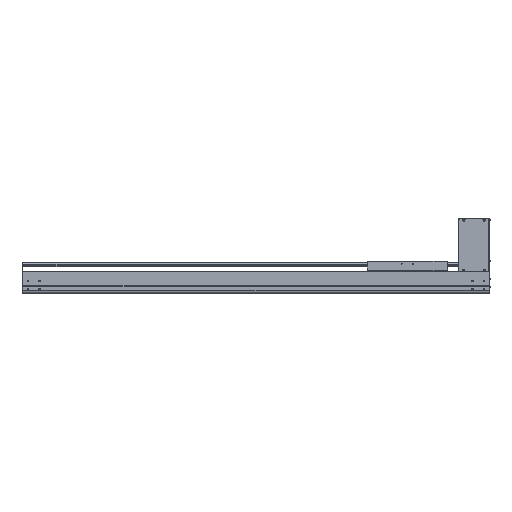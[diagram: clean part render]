
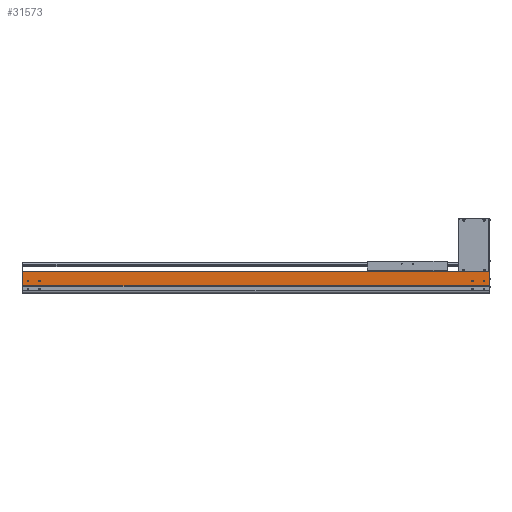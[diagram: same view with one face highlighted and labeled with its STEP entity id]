
A CAD part, top view. The second image highlights one B-rep face of the part: STEP entity #31573.
In plain terms, the highlighted planar face has unit normal (0, 0, 1).
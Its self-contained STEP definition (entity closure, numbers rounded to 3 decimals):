
#8467=DIRECTION('',(-1.,-0.006,-0.017));
#8468=VECTOR('',#8467,1.5);
#8469=CARTESIAN_POINT('',(1.5,94.,107.));
#8470=LINE('',#8469,#8468);
#8471=DIRECTION('',(-1.,0.,0.));
#8472=VECTOR('',#8471,2048.5);
#8473=CARTESIAN_POINT('',(0.,93.5,107.));
#8474=LINE('',#8473,#8472);
#8515=CARTESIAN_POINT('',(0.,93.992,106.974));
#8516=CARTESIAN_POINT('',(0.,93.939,106.974));
#8517=CARTESIAN_POINT('',(0.,93.857,107.018));
#8518=CARTESIAN_POINT('',(0.,93.779,106.99));
#8519=CARTESIAN_POINT('',(0.,93.747,106.99));
#8521=CARTESIAN_POINT('',(0.,93.747,106.99));
#8522=CARTESIAN_POINT('',(0.,93.707,106.99));
#8523=CARTESIAN_POINT('',(0.,93.626,107.005));
#8524=CARTESIAN_POINT('',(0.,93.543,107.));
#8525=CARTESIAN_POINT('',(0.,93.5,107.));
#8527=CARTESIAN_POINT('',(-2023.5,54.,107.));
#8528=DIRECTION('',(0.,0.,-1.));
#8529=DIRECTION('',(1.,0.,0.));
#8530=AXIS2_PLACEMENT_3D('',#8527,#8528,#8529);
#8532=CARTESIAN_POINT('',(-2023.5,54.,107.));
#8533=DIRECTION('',(0.,0.,-1.));
#8534=DIRECTION('',(-1.,0.,0.));
#8535=AXIS2_PLACEMENT_3D('',#8532,#8533,#8534);
#8537=CARTESIAN_POINT('',(-1973.5,54.,107.));
#8538=DIRECTION('',(0.,0.,-1.));
#8539=DIRECTION('',(1.,0.,0.));
#8540=AXIS2_PLACEMENT_3D('',#8537,#8538,#8539);
#8542=CARTESIAN_POINT('',(-1973.5,54.,107.));
#8543=DIRECTION('',(0.,0.,-1.));
#8544=DIRECTION('',(-1.,0.,0.));
#8545=AXIS2_PLACEMENT_3D('',#8542,#8543,#8544);
#8547=CARTESIAN_POINT('',(-23.5,54.,107.));
#8548=DIRECTION('',(0.,0.,-1.));
#8549=DIRECTION('',(1.,0.,0.));
#8550=AXIS2_PLACEMENT_3D('',#8547,#8548,#8549);
#8552=CARTESIAN_POINT('',(-23.5,54.,107.));
#8553=DIRECTION('',(0.,0.,-1.));
#8554=DIRECTION('',(-1.,0.,0.));
#8555=AXIS2_PLACEMENT_3D('',#8552,#8553,#8554);
#8557=CARTESIAN_POINT('',(-73.5,54.,107.));
#8558=DIRECTION('',(0.,0.,-1.));
#8559=DIRECTION('',(1.,0.,0.));
#8560=AXIS2_PLACEMENT_3D('',#8557,#8558,#8559);
#8562=CARTESIAN_POINT('',(-73.5,54.,107.));
#8563=DIRECTION('',(0.,0.,-1.));
#8564=DIRECTION('',(-1.,0.,0.));
#8565=AXIS2_PLACEMENT_3D('',#8562,#8563,#8564);
#8567=DIRECTION('',(0.,-1.,0.));
#8568=VECTOR('',#8567,2.55);
#8569=CARTESIAN_POINT('',(-2046.5,34.65,107.));
#8570=LINE('',#8569,#8568);
#8571=DIRECTION('',(0.,-1.,0.));
#8572=VECTOR('',#8571,58.85);
#8573=CARTESIAN_POINT('',(-2048.5,93.5,107.));
#8574=LINE('',#8573,#8572);
#8575=DIRECTION('',(0.,1.,0.));
#8576=VECTOR('',#8575,58.35);
#8577=CARTESIAN_POINT('',(1.5,35.65,107.));
#8578=LINE('',#8577,#8576);
#8579=DIRECTION('',(0.,1.,0.));
#8580=VECTOR('',#8579,3.55);
#8581=CARTESIAN_POINT('',(0.,32.1,107.));
#8582=LINE('',#8581,#8580);
#8583=DIRECTION('',(1.,0.,0.));
#8584=VECTOR('',#8583,2046.5);
#8585=CARTESIAN_POINT('',(-2046.5,32.1,107.));
#8586=LINE('',#8585,#8584);
#8695=DIRECTION('',(1.,0.,0.));
#8696=VECTOR('',#8695,2.);
#8697=CARTESIAN_POINT('',(-2048.5,34.65,107.));
#8698=LINE('',#8697,#8696);
#8719=DIRECTION('',(1.,0.,0.));
#8720=VECTOR('',#8719,1.5);
#8721=CARTESIAN_POINT('',(0.,35.65,107.));
#8722=LINE('',#8721,#8720);
#17120=CARTESIAN_POINT('',(1.5,94.,107.));
#17121=VERTEX_POINT('',#17120);
#17122=CARTESIAN_POINT('',(1.5,35.65,107.));
#17123=VERTEX_POINT('',#17122);
#17192=CARTESIAN_POINT('',(-2048.5,34.65,107.));
#17193=VERTEX_POINT('',#17192);
#17194=CARTESIAN_POINT('',(-2048.5,93.5,107.));
#17195=VERTEX_POINT('',#17194);
#17420=CARTESIAN_POINT('',(-2046.5,32.1,107.));
#17421=VERTEX_POINT('',#17420);
#17471=CARTESIAN_POINT('',(0.,32.1,107.));
#17473=VERTEX_POINT('',#17471);
#18026=CARTESIAN_POINT('',(-2021.,54.,107.));
#18027=CARTESIAN_POINT('',(-2026.,54.,107.));
#18028=VERTEX_POINT('',#18026);
#18029=VERTEX_POINT('',#18027);
#18030=CARTESIAN_POINT('',(-1971.,54.,107.));
#18031=CARTESIAN_POINT('',(-1976.,54.,107.));
#18032=VERTEX_POINT('',#18030);
#18033=VERTEX_POINT('',#18031);
#18034=CARTESIAN_POINT('',(-21.,54.,107.));
#18035=CARTESIAN_POINT('',(-26.,54.,107.));
#18036=VERTEX_POINT('',#18034);
#18037=VERTEX_POINT('',#18035);
#18038=CARTESIAN_POINT('',(-71.,54.,107.));
#18039=CARTESIAN_POINT('',(-76.,54.,107.));
#18040=VERTEX_POINT('',#18038);
#18041=VERTEX_POINT('',#18039);
#20232=CARTESIAN_POINT('',(0.,35.65,107.));
#20233=VERTEX_POINT('',#20232);
#20234=CARTESIAN_POINT('',(0.,93.975,106.923));
#20236=VERTEX_POINT('',#20234);
#20382=VERTEX_POINT('',#8519);
#20383=VERTEX_POINT('',#8525);
#20841=CARTESIAN_POINT('',(-2046.5,34.65,107.));
#20842=VERTEX_POINT('',#20841);
#31528=CARTESIAN_POINT('',(-1023.25,62.8,107.));
#31529=DIRECTION('',(0.,0.,1.));
#31530=DIRECTION('',(0.,-1.,0.));
#31531=AXIS2_PLACEMENT_3D('',#31528,#31529,#31530);
#31532=PLANE('',#31531);
#31533=ORIENTED_EDGE('',*,*,#22761,.F.);
#31535=ORIENTED_EDGE('',*,*,#31534,.F.);
#31536=ORIENTED_EDGE('',*,*,#24969,.F.);
#31537=ORIENTED_EDGE('',*,*,#31509,.F.);
#31538=ORIENTED_EDGE('',*,*,#31523,.F.);
#31539=ORIENTED_EDGE('',*,*,#31521,.F.);
#31540=ORIENTED_EDGE('',*,*,#31499,.F.);
#31541=ORIENTED_EDGE('',*,*,#21687,.F.);
#31543=ORIENTED_EDGE('',*,*,#31542,.F.);
#31544=ORIENTED_EDGE('',*,*,#23518,.F.);
#31546=ORIENTED_EDGE('',*,*,#31545,.F.);
#31547=EDGE_LOOP('',(#31533,#31535,#31536,#31537,#31538,#31539,#31540,#31541,
#31543,#31544,#31546));
#31548=FACE_OUTER_BOUND('',#31547,.F.);
#31550=ORIENTED_EDGE('',*,*,#31549,.F.);
#31552=ORIENTED_EDGE('',*,*,#31551,.F.);
#31553=EDGE_LOOP('',(#31550,#31552));
#31554=FACE_BOUND('',#31553,.F.);
#31556=ORIENTED_EDGE('',*,*,#31555,.F.);
#31558=ORIENTED_EDGE('',*,*,#31557,.F.);
#31559=EDGE_LOOP('',(#31556,#31558));
#31560=FACE_BOUND('',#31559,.F.);
#31562=ORIENTED_EDGE('',*,*,#31561,.F.);
#31564=ORIENTED_EDGE('',*,*,#31563,.F.);
#31565=EDGE_LOOP('',(#31562,#31564));
#31566=FACE_BOUND('',#31565,.F.);
#31568=ORIENTED_EDGE('',*,*,#31567,.F.);
#31570=ORIENTED_EDGE('',*,*,#31569,.F.);
#31571=EDGE_LOOP('',(#31568,#31570));
#31572=FACE_BOUND('',#31571,.F.);
#31573=ADVANCED_FACE('',(#31548,#31554,#31560,#31566,#31572),#31532,.T.);
#8520=B_SPLINE_CURVE_WITH_KNOTS('',3,(#8515,#8516,#8517,#8518,#8519),
.UNSPECIFIED.,.F.,.F.,(4,1,4),(0.,0.5,1.),.UNSPECIFIED.);
#8526=B_SPLINE_CURVE_WITH_KNOTS('',3,(#8521,#8522,#8523,#8524,#8525),
.UNSPECIFIED.,.F.,.F.,(4,1,4),(0.,0.5,1.),.UNSPECIFIED.);
#8531=CIRCLE('',#8530,2.5);
#8536=CIRCLE('',#8535,2.5);
#8541=CIRCLE('',#8540,2.5);
#8546=CIRCLE('',#8545,2.5);
#8551=CIRCLE('',#8550,2.5);
#8556=CIRCLE('',#8555,2.5);
#8561=CIRCLE('',#8560,2.5);
#8566=CIRCLE('',#8565,2.5);
#21687=EDGE_CURVE('',#17123,#17121,#8578,.T.);
#22761=EDGE_CURVE('',#20842,#17421,#8570,.T.);
#23518=EDGE_CURVE('',#17473,#20233,#8582,.T.);
#24969=EDGE_CURVE('',#17195,#17193,#8574,.T.);
#31499=EDGE_CURVE('',#17121,#20236,#8470,.T.);
#31509=EDGE_CURVE('',#20383,#17195,#8474,.T.);
#31521=EDGE_CURVE('',#20236,#20382,#8520,.T.);
#31523=EDGE_CURVE('',#20382,#20383,#8526,.T.);
#31534=EDGE_CURVE('',#17193,#20842,#8698,.T.);
#31542=EDGE_CURVE('',#20233,#17123,#8722,.T.);
#31545=EDGE_CURVE('',#17421,#17473,#8586,.T.);
#31549=EDGE_CURVE('',#18032,#18033,#8541,.T.);
#31551=EDGE_CURVE('',#18033,#18032,#8546,.T.);
#31555=EDGE_CURVE('',#18036,#18037,#8551,.T.);
#31557=EDGE_CURVE('',#18037,#18036,#8556,.T.);
#31561=EDGE_CURVE('',#18040,#18041,#8561,.T.);
#31563=EDGE_CURVE('',#18041,#18040,#8566,.T.);
#31567=EDGE_CURVE('',#18028,#18029,#8531,.T.);
#31569=EDGE_CURVE('',#18029,#18028,#8536,.T.);
